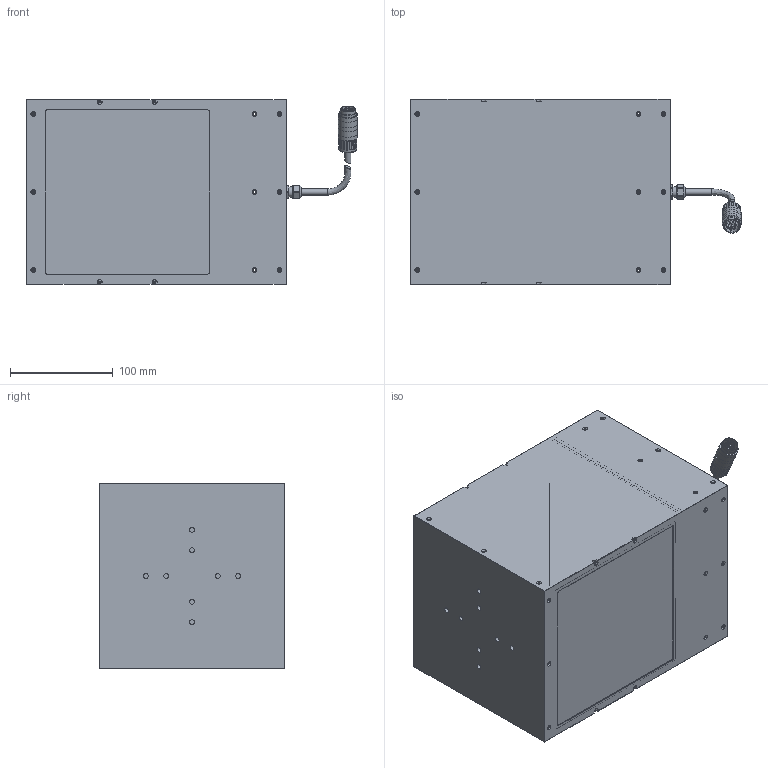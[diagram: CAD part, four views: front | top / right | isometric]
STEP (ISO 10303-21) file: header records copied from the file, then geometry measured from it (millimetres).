
FILE_DESCRIPTION(/* description */ ('Unknown','CAx-IF Rec.Pracs.---Representation and Presentation of Product Manufacturing Information (PMI)---4.0---2014-10-13','CAx-IF Rec.Pracs.---3D Tessellated Geometry---0.4---2014-09-14','2;1'),/* implementation_level */ '2;1');
FILE_NAME(/* name */ 'ES160',/* time_stamp */ '2021-01-07T08:14:27+01:00',/* author */ ('AW'),/* organization */ ('iiM AG'),/* preprocessor_version */ 'ST-DEVELOPER v16.7',/* originating_system */ 'DEX',/* authorisation */ $);
FILE_SCHEMA (('AP242_MANAGED_MODEL_BASED_3D_ENGINEERING_MIM_LF { 1 0 10303 442 1 1 4 }'));
Length unit declared in the file: millimetre
Products named in the file (1): ES160
Bounding box: 322.29 x 180 x 180 mm (x, y, z)
Volume: 1194318.7 mm3; surface area: 500528.1 mm2
Topology: 6 solids, 6 shells, 654 faces, 1593 edges, 1048 vertices
Faces by surface type: plane 336, cylinder 228, cone 77, sphere 12, bspline 1
Full cylindrical faces by diameter (mm): 1 x12, 1.567 x56, 2.4 x36, 2.5 x8, 3 x4, 4 x2, 4.134 x8, 4.917 x24, 6 x2, 6.25 x1, 7 x2, 8 x1, 8.376 x1, 10 x1, 12.9 x2, 15 x1, 16 x1, 17.5 x1, 18.5 x3, 18.6 x2
Entity records: 20631 total; most frequent: CARTESIAN_POINT 3226, DIRECTION 2958, ORIENTED_EDGE 2354, EDGE_CURVE 1177, AXIS2_PLACEMENT_3D 1144, FACE_BOUND 1076, EDGE_LOOP 1058, VERTEX_POINT 921
